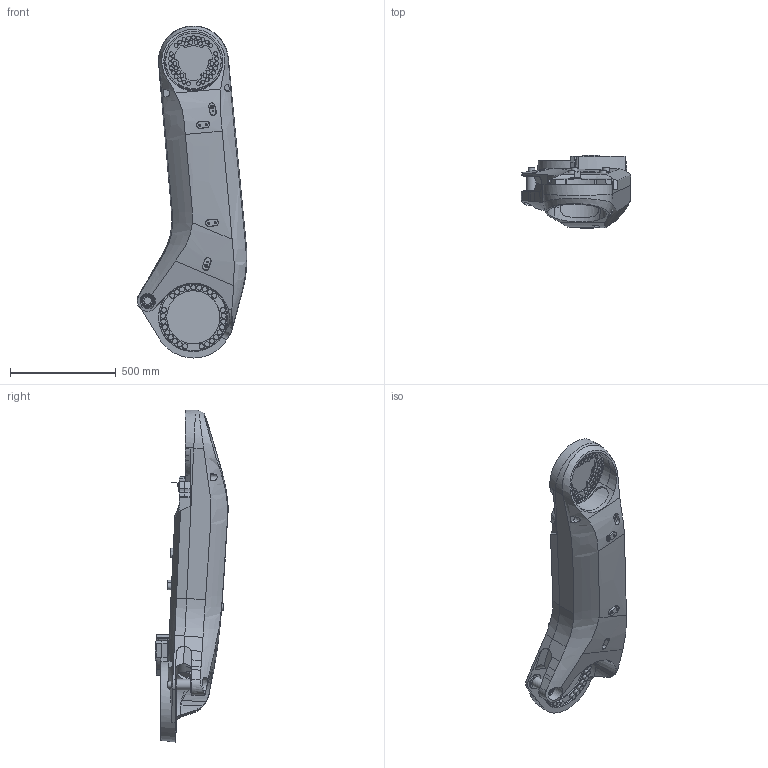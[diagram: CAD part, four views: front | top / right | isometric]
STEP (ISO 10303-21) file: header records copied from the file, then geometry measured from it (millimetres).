
FILE_DESCRIPTION (( 'STEP AP203' ), '1' );
FILE_NAME ('IRB6730S_All_OC_00_LINK02_CAD.step', '2025-12-19T13:22:07', ( '' ), ( '' ), 'SwSTEP 2.0', 'SolidWorks 2024', '' );
FILE_SCHEMA (( 'CONFIG_CONTROL_DESIGN' ));
Length unit declared in the file: millimetre
Products named in the file (1): IRB6730S_All_OC_00_LINK02_CAD
Bounding box: 518.64 x 349 x 1566.6 mm (x, y, z)
Volume: 81287478.9 mm3; surface area: 2069267.2 mm2
Topology: 1 solids, 1 shells, 651 faces, 1615 edges, 1083 vertices
Faces by surface type: plane 337, cylinder 136, bspline 131, cone 37, torus 10
Full cylindrical faces by diameter (mm): 4.8 x2, 6.8 x4, 7 x4, 8.5 x8, 12 x2, 14 x1, 16 x2, 17.9 x2, 18 x2, 18.27 x39, 24 x27, 50 x1, 51 x1, 60 x1, 263 x2, 297 x1, 315 x2, 355.5 x1
Entity records: 48730 total; most frequent: CARTESIAN_POINT 35671, ORIENTED_EDGE 2692, DIRECTION 2150, EDGE_CURVE 1346, VERTEX_POINT 972, EDGE_LOOP 928, AXIS2_PLACEMENT_3D 799, FACE_OUTER_BOUND 779
